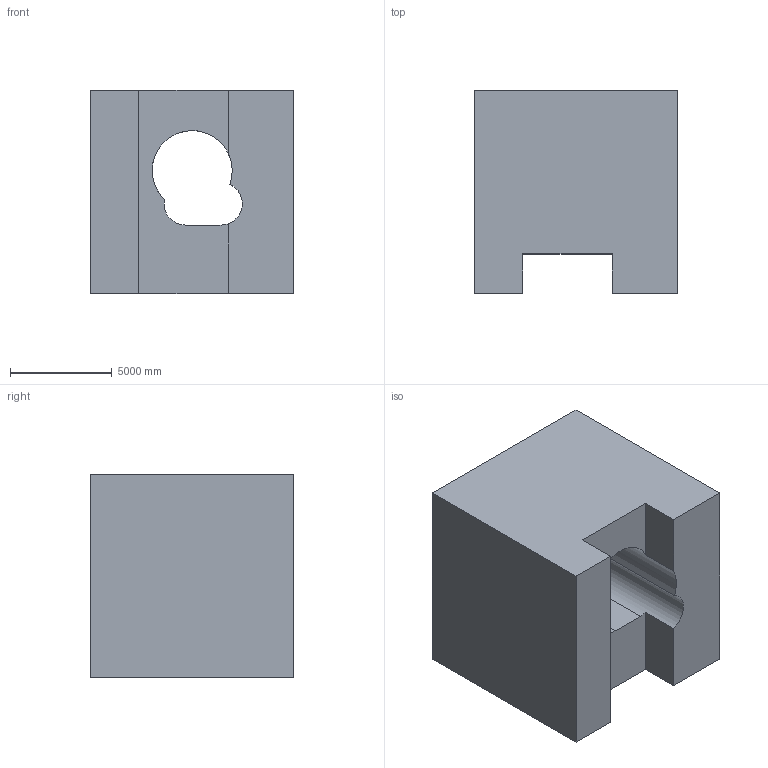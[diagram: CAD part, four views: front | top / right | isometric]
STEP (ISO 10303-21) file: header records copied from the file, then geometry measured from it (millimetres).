
FILE_DESCRIPTION (( 'STEP AP203' ), '1' );
FILE_NAME ('42.STEP', '2022-08-31T11:15:42', ( 'user' ), ( '' ), 'SwSTEP 2.0', 'SolidWorks 2021', '' );
FILE_SCHEMA (( 'CONFIG_CONTROL_DESIGN' ));
Length unit declared in the file: centimetre
Products named in the file (1): 42
Bounding box: 10000 x 10000 x 10000 mm (x, y, z)
Volume: 783007852988.9 mm3; surface area: 711094316.5 mm2
Topology: 1 solids, 1 shells, 15 faces, 42 edges, 28 vertices
Faces by surface type: plane 12, cylinder 3
Entity records: 565 total; most frequent: CARTESIAN_POINT 86, ORIENTED_EDGE 84, DIRECTION 82, EDGE_CURVE 42, VECTOR 34, LINE 34, VERTEX_POINT 28, AXIS2_PLACEMENT_3D 24
